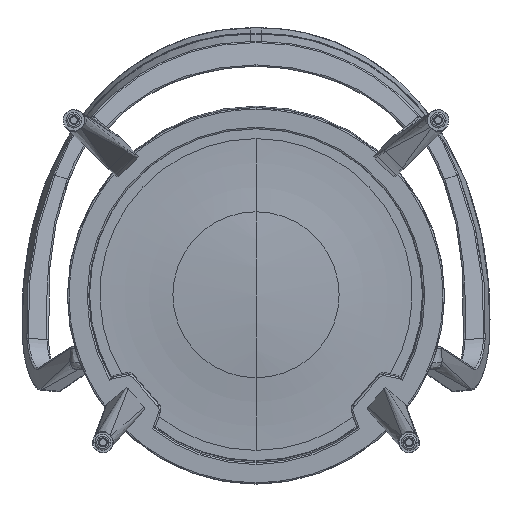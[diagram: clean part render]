
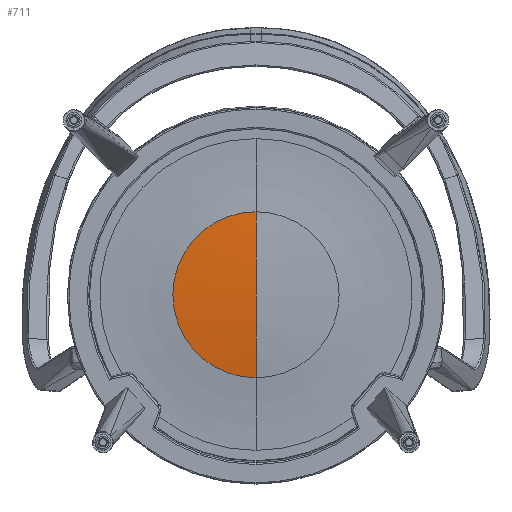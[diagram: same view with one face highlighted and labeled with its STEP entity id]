
A CAD part, top view. The second image highlights one B-rep face of the part: STEP entity #711.
In plain terms, the highlighted spherical face has radius 905 mm.
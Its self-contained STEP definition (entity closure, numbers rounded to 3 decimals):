
#711 = ADVANCED_FACE ( 'NONE', ( #16867 ), #3923, .T. ) ;
#763 = DIRECTION ( 'NONE',  ( 1., 0., 0. ) ) ;
#1703 = AXIS2_PLACEMENT_3D ( 'NONE', #6906, #12978, #16211 ) ;
#2513 = CIRCLE ( 'NONE', #12509, 905. ) ;
#3058 = CARTESIAN_POINT ( 'NONE',  ( 0., 49.97, -1337.61 ) ) ;
#3923 = SPHERICAL_SURFACE ( 'NONE', #7458, 905. ) ;
#4139 = EDGE_CURVE ( 'NONE', #12774, #12338, #9830, .T. ) ;
#5759 = EDGE_CURVE ( 'NONE', #9729, #12338, #2513, .T. ) ;
#6717 = CARTESIAN_POINT ( 'NONE',  ( 0., 49.97, -1337.61 ) ) ;
#6906 = CARTESIAN_POINT ( 'NONE',  ( 0., 1.442, -439.842 ) ) ;
#7458 = AXIS2_PLACEMENT_3D ( 'NONE', #3058, #14221, #13522 ) ;
#7856 = CARTESIAN_POINT ( 'NONE',  ( 0., 104.647, -434.263 ) ) ;
#8960 = ORIENTED_EDGE ( 'NONE', *, *, #20097, .F. ) ;
#9036 = EDGE_LOOP ( 'NONE', ( #8960, #11127, #14289 ) ) ;
#9729 = VERTEX_POINT ( 'NONE', #12606 ) ;
#9830 = CIRCLE ( 'NONE', #16180, 905. ) ;
#9958 = DIRECTION ( 'NONE',  ( 0., 0., -1. ) ) ;
#10760 = CARTESIAN_POINT ( 'NONE',  ( 0., 49.97, -1337.61 ) ) ;
#11127 = ORIENTED_EDGE ( 'NONE', *, *, #5759, .T. ) ;
#11885 = CARTESIAN_POINT ( 'NONE',  ( 0., 1.123, -433.93 ) ) ;
#12231 = DIRECTION ( 'NONE',  ( -1., 0., 0. ) ) ;
#12338 = VERTEX_POINT ( 'NONE', #11885 ) ;
#12509 = AXIS2_PLACEMENT_3D ( 'NONE', #10760, #12231, #18576 ) ;
#12606 = CARTESIAN_POINT ( 'NONE',  ( 0., -101.763, -445.421 ) ) ;
#12774 = VERTEX_POINT ( 'NONE', #7856 ) ;
#12978 = DIRECTION ( 'NONE',  ( 0., 0.054, -0.999 ) ) ;
#13522 = DIRECTION ( 'NONE',  ( 0., 0.999, 0.054 ) ) ;
#14019 = CIRCLE ( 'NONE', #1703, 103.355 ) ;
#14221 = DIRECTION ( 'NONE',  ( -1., 0., 0. ) ) ;
#14289 = ORIENTED_EDGE ( 'NONE', *, *, #4139, .F. ) ;
#16180 = AXIS2_PLACEMENT_3D ( 'NONE', #6717, #763, #9958 ) ;
#16211 = DIRECTION ( 'NONE',  ( 0., -0.999, -0.054 ) ) ;
#16867 = FACE_OUTER_BOUND ( 'NONE', #9036, .T. ) ;
#18576 = DIRECTION ( 'NONE',  ( 0., -1., 0. ) ) ;
#20097 = EDGE_CURVE ( 'NONE', #9729, #12774, #14019, .T. ) ;
